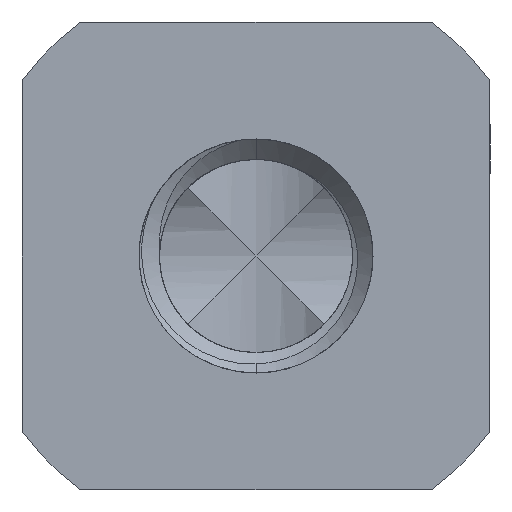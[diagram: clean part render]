
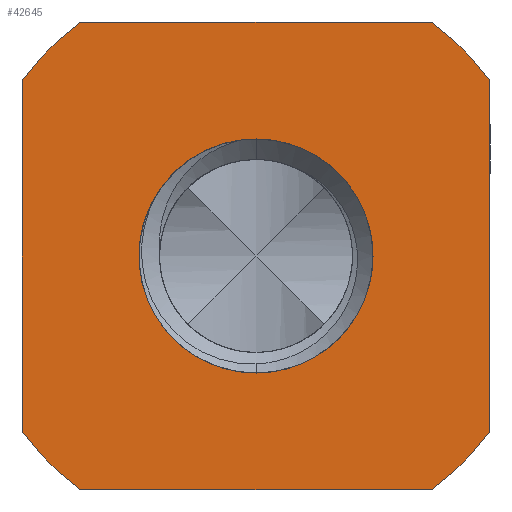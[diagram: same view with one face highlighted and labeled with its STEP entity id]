
A CAD part, front view. The second image highlights one B-rep face of the part: STEP entity #42645.
In plain terms, the highlighted planar face has unit normal (0, -1, 0).
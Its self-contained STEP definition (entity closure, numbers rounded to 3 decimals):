
#144 = VECTOR ( 'NONE', #4628, 1000. ) ;
#703 = DIRECTION ( 'NONE',  ( 0., 0., 1. ) ) ;
#752 = VERTEX_POINT ( 'NONE', #46938 ) ;
#1637 = ORIENTED_EDGE ( 'NONE', *, *, #38657, .T. ) ;
#1931 = CARTESIAN_POINT ( 'NONE',  ( -4., -4., 3. ) ) ;
#2555 = VERTEX_POINT ( 'NONE', #15459 ) ;
#2690 = LINE ( 'NONE', #20501, #35047 ) ;
#3318 = CARTESIAN_POINT ( 'NONE',  ( -4., -4., 0. ) ) ;
#4396 = CARTESIAN_POINT ( 'NONE',  ( 0., -4., 0. ) ) ;
#4628 = DIRECTION ( 'NONE',  ( 0., 0., 1. ) ) ;
#4843 = ORIENTED_EDGE ( 'NONE', *, *, #16190, .F. ) ;
#5132 = CARTESIAN_POINT ( 'NONE',  ( 0., -4., 0. ) ) ;
#5716 = EDGE_LOOP ( 'NONE', ( #19987, #7703, #1637, #23592 ) ) ;
#5950 = DIRECTION ( 'NONE',  ( 0., 0., 1. ) ) ;
#5966 = VERTEX_POINT ( 'NONE', #9936 ) ;
#7159 = DIRECTION ( 'NONE',  ( 0., 0., 1. ) ) ;
#7231 = CIRCLE ( 'NONE', #20648, 5. ) ;
#7703 = ORIENTED_EDGE ( 'NONE', *, *, #46296, .T. ) ;
#8629 = EDGE_CURVE ( 'NONE', #42783, #31152, #40682, .T. ) ;
#9684 = CARTESIAN_POINT ( 'NONE',  ( 0., -4., -4. ) ) ;
#9936 = CARTESIAN_POINT ( 'NONE',  ( 3., -4., 4. ) ) ;
#11807 = DIRECTION ( 'NONE',  ( 0., 1., 0. ) ) ;
#12015 = DIRECTION ( 'NONE',  ( 0., 1., 0. ) ) ;
#12943 = AXIS2_PLACEMENT_3D ( 'NONE', #5132, #24378, #28740 ) ;
#13160 = ORIENTED_EDGE ( 'NONE', *, *, #47021, .F. ) ;
#15140 = AXIS2_PLACEMENT_3D ( 'NONE', #16819, #31455, #27915 ) ;
#15459 = CARTESIAN_POINT ( 'NONE',  ( -1.616, -4., 1.179 ) ) ;
#16190 = EDGE_CURVE ( 'NONE', #39399, #42783, #46602, .T. ) ;
#16819 = CARTESIAN_POINT ( 'NONE',  ( 0., -4., 0. ) ) ;
#17453 = CARTESIAN_POINT ( 'NONE',  ( 4., -4., 3. ) ) ;
#18805 = CARTESIAN_POINT ( 'NONE',  ( -3., -4., -4. ) ) ;
#19229 = CARTESIAN_POINT ( 'NONE',  ( 0., -4., 0. ) ) ;
#19681 = DIRECTION ( 'NONE',  ( 0., 0., 1. ) ) ;
#19862 = EDGE_CURVE ( 'NONE', #40111, #5966, #2690, .T. ) ;
#19987 = ORIENTED_EDGE ( 'NONE', *, *, #35567, .T. ) ;
#20338 = PLANE ( 'NONE',  #24823 ) ;
#20501 = CARTESIAN_POINT ( 'NONE',  ( 0., -4., 4. ) ) ;
#20648 = AXIS2_PLACEMENT_3D ( 'NONE', #20768, #40060, #28656 ) ;
#20768 = CARTESIAN_POINT ( 'NONE',  ( 0., -4., 0. ) ) ;
#21037 = DIRECTION ( 'NONE',  ( 0., 0., 1. ) ) ;
#21258 = CARTESIAN_POINT ( 'NONE',  ( 4., -4., -3. ) ) ;
#21415 = CIRCLE ( 'NONE', #48022, 2. ) ;
#21740 = CARTESIAN_POINT ( 'NONE',  ( -0.293, -4., 1.978 ) ) ;
#23307 = DIRECTION ( 'NONE',  ( 0., 1., 0. ) ) ;
#23554 = CARTESIAN_POINT ( 'NONE',  ( 4., -4., 0. ) ) ;
#23592 = ORIENTED_EDGE ( 'NONE', *, *, #33311, .T. ) ;
#23738 = DIRECTION ( 'NONE',  ( 0., 0., 1. ) ) ;
#23923 = ORIENTED_EDGE ( 'NONE', *, *, #19862, .F. ) ;
#24378 = DIRECTION ( 'NONE',  ( 0., 1., 0. ) ) ;
#24823 = AXIS2_PLACEMENT_3D ( 'NONE', #36439, #39303, #5950 ) ;
#25365 = AXIS2_PLACEMENT_3D ( 'NONE', #27744, #11807, #19681 ) ;
#25855 = VERTEX_POINT ( 'NONE', #21740 ) ;
#26811 = CIRCLE ( 'NONE', #41565, 2. ) ;
#26814 = LINE ( 'NONE', #9684, #37623 ) ;
#27516 = EDGE_CURVE ( 'NONE', #48489, #44726, #46306, .T. ) ;
#27744 = CARTESIAN_POINT ( 'NONE',  ( 0., -4., 0. ) ) ;
#27915 = DIRECTION ( 'NONE',  ( 0., 0., 1. ) ) ;
#28656 = DIRECTION ( 'NONE',  ( 0., 0., 1. ) ) ;
#28738 = CARTESIAN_POINT ( 'NONE',  ( -4., -4., -3. ) ) ;
#28740 = DIRECTION ( 'NONE',  ( 0., 0., 1. ) ) ;
#29174 = CIRCLE ( 'NONE', #44890, 5. ) ;
#30133 = CARTESIAN_POINT ( 'NONE',  ( 0., -4., 0. ) ) ;
#30206 = CIRCLE ( 'NONE', #15140, 2. ) ;
#30445 = EDGE_CURVE ( 'NONE', #31152, #40111, #7231, .T. ) ;
#30554 = VERTEX_POINT ( 'NONE', #48262 ) ;
#30580 = CARTESIAN_POINT ( 'NONE',  ( -3., -4., 4. ) ) ;
#30632 = DIRECTION ( 'NONE',  ( 0., 1., 0. ) ) ;
#31152 = VERTEX_POINT ( 'NONE', #1931 ) ;
#31215 = ORIENTED_EDGE ( 'NONE', *, *, #8629, .F. ) ;
#31273 = EDGE_CURVE ( 'NONE', #5966, #44726, #41398, .T. ) ;
#31455 = DIRECTION ( 'NONE',  ( 0., 1., 0. ) ) ;
#31514 = CIRCLE ( 'NONE', #49438, 2. ) ;
#31810 = VERTEX_POINT ( 'NONE', #48499 ) ;
#32268 = ORIENTED_EDGE ( 'NONE', *, *, #27516, .T. ) ;
#32318 = VECTOR ( 'NONE', #7159, 1000. ) ;
#32628 = EDGE_CURVE ( 'NONE', #39399, #752, #26814, .T. ) ;
#33311 = EDGE_CURVE ( 'NONE', #30554, #2555, #21415, .T. ) ;
#35047 = VECTOR ( 'NONE', #47175, 1000. ) ;
#35567 = EDGE_CURVE ( 'NONE', #2555, #25855, #31514, .T. ) ;
#36439 = CARTESIAN_POINT ( 'NONE',  ( 0., -4., 0. ) ) ;
#36498 = DIRECTION ( 'NONE',  ( 1., 0., 0. ) ) ;
#37623 = VECTOR ( 'NONE', #36498, 1000. ) ;
#38538 = FACE_BOUND ( 'NONE', #5716, .T. ) ;
#38657 = EDGE_CURVE ( 'NONE', #31810, #30554, #30206, .T. ) ;
#39303 = DIRECTION ( 'NONE',  ( 0., 1., 0. ) ) ;
#39399 = VERTEX_POINT ( 'NONE', #18805 ) ;
#39449 = ORIENTED_EDGE ( 'NONE', *, *, #32628, .T. ) ;
#40060 = DIRECTION ( 'NONE',  ( 0., 1., 0. ) ) ;
#40111 = VERTEX_POINT ( 'NONE', #30580 ) ;
#40157 = DIRECTION ( 'NONE',  ( 0., 1., 0. ) ) ;
#40682 = LINE ( 'NONE', #3318, #32318 ) ;
#41398 = CIRCLE ( 'NONE', #12943, 5. ) ;
#41505 = FACE_OUTER_BOUND ( 'NONE', #42525, .T. ) ;
#41565 = AXIS2_PLACEMENT_3D ( 'NONE', #19229, #12015, #23738 ) ;
#42525 = EDGE_LOOP ( 'NONE', ( #23923, #43707, #31215, #4843, #39449, #13160, #32268, #48759 ) ) ;
#42645 = ADVANCED_FACE ( 'NONE', ( #38538, #41505 ), #20338, .F. ) ;
#42783 = VERTEX_POINT ( 'NONE', #28738 ) ;
#43707 = ORIENTED_EDGE ( 'NONE', *, *, #30445, .F. ) ;
#44726 = VERTEX_POINT ( 'NONE', #17453 ) ;
#44890 = AXIS2_PLACEMENT_3D ( 'NONE', #47694, #40157, #21037 ) ;
#46296 = EDGE_CURVE ( 'NONE', #25855, #31810, #26811, .T. ) ;
#46306 = LINE ( 'NONE', #23554, #144 ) ;
#46602 = CIRCLE ( 'NONE', #25365, 5. ) ;
#46938 = CARTESIAN_POINT ( 'NONE',  ( 3., -4., -4. ) ) ;
#47021 = EDGE_CURVE ( 'NONE', #48489, #752, #29174, .T. ) ;
#47175 = DIRECTION ( 'NONE',  ( 1., 0., 0. ) ) ;
#47694 = CARTESIAN_POINT ( 'NONE',  ( 0., -4., 0. ) ) ;
#48022 = AXIS2_PLACEMENT_3D ( 'NONE', #30133, #30632, #49054 ) ;
#48262 = CARTESIAN_POINT ( 'NONE',  ( 0., -4., -2. ) ) ;
#48489 = VERTEX_POINT ( 'NONE', #21258 ) ;
#48499 = CARTESIAN_POINT ( 'NONE',  ( 0., -4., 2. ) ) ;
#48759 = ORIENTED_EDGE ( 'NONE', *, *, #31273, .F. ) ;
#49054 = DIRECTION ( 'NONE',  ( 0., 0., 1. ) ) ;
#49438 = AXIS2_PLACEMENT_3D ( 'NONE', #4396, #23307, #703 ) ;
